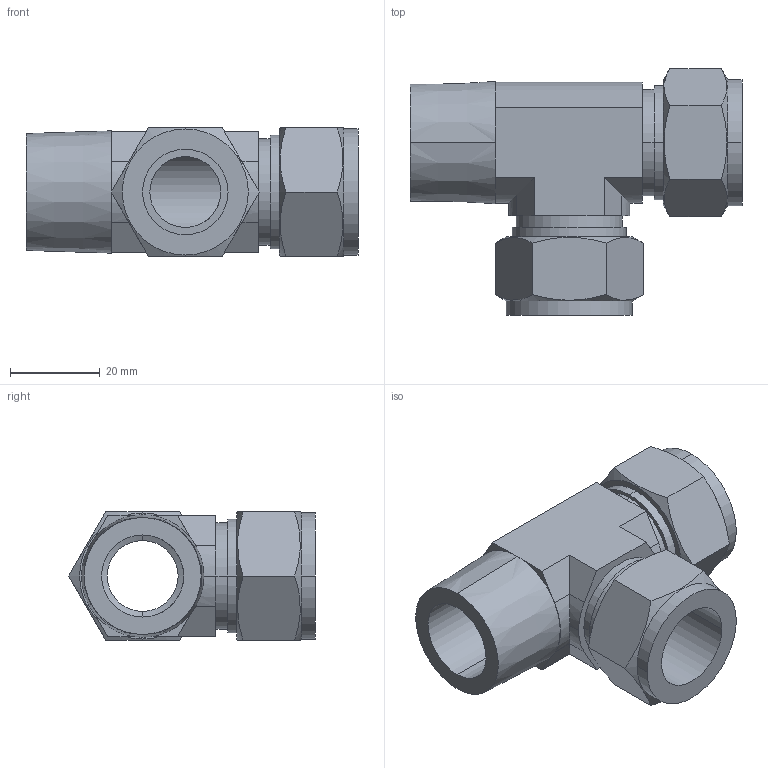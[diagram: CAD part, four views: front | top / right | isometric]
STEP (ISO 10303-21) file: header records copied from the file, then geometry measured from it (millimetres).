
FILE_DESCRIPTION (( 'STEP AP203' ), '1' );
FILE_NAME ('DTK 12-12 SS.STEP', '2009-09-08T10:03:31', ( ' ' ), ( '' ), 'SwSTEP 2.0', 'SolidWorks 2008', '' );
FILE_SCHEMA (( 'CONFIG_CONTROL_DESIGN' ));
Length unit declared in the file: millimetre
Products named in the file (1): DTK 12-12 SS
Bounding box: 74 x 55 x 28.58 mm (x, y, z)
Volume: 34149.8 mm3; surface area: 16526.4 mm2
Topology: 1 solids, 1 shells, 83 faces, 201 edges, 128 vertices
Faces by surface type: plane 43, cylinder 28, cone 12
Entity records: 2805 total; most frequent: CARTESIAN_POINT 792, ORIENTED_EDGE 402, DIRECTION 399, EDGE_CURVE 201, AXIS2_PLACEMENT_3D 151, VERTEX_POINT 128, VECTOR 97, LINE 97
